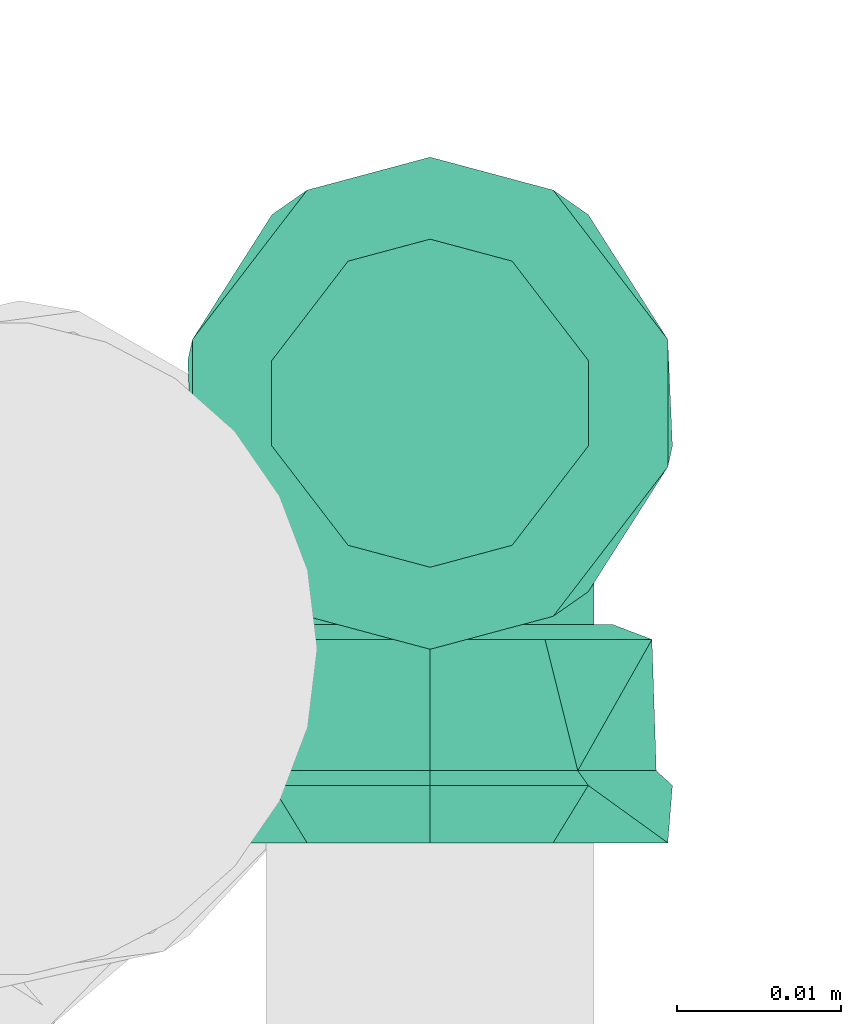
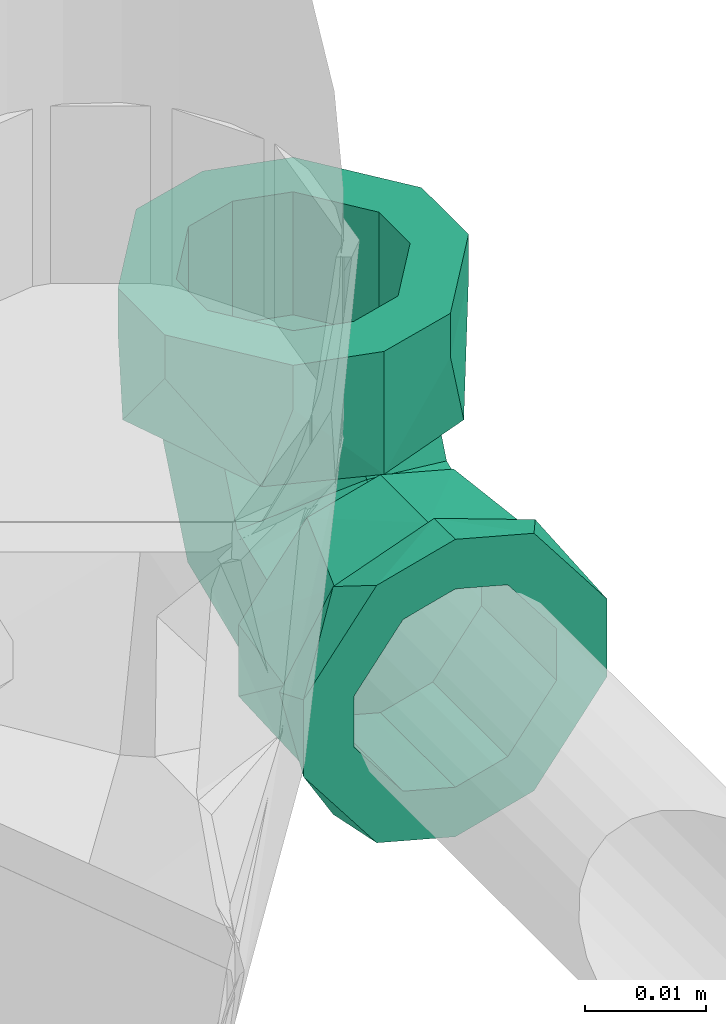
# One storey, part 313 of 589: 1 flow fitting.
"""IFC2X3 building model written with IfcOpenShell, lengths in millimetres."""

from ifc_helpers import new_model, entity, si_unit, converted_unit, derived_unit, direction, frame, origin, place, context, subcontext, project, spatial, faceted_brep, source, transform, mapped, material, type_object, type_shapes, element, save


model = new_model("IFC2X3")

# Units and contexts
model_context = context("Model", 3, precision=0.01, world=origin(), true_north=direction((6.123031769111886e-17, 1.0)))
body_context = subcontext(model_context, "Body", "Model", "MODEL_VIEW")
ifc_project = project(units=[si_unit("LENGTHUNIT", "METRE", prefix="MILLI"), si_unit("AREAUNIT", "SQUARE_METRE"), si_unit("VOLUMEUNIT", "CUBIC_METRE"), converted_unit("PLANEANGLEUNIT", "DEGREE", entity("IfcRatioMeasure", 0.017453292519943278), si_unit("PLANEANGLEUNIT", "RADIAN"), dimensions=[0, 0, 0, 0, 0, 0, 0]), si_unit("MASSUNIT", "GRAM", prefix="KILO"), derived_unit("MASSDENSITYUNIT", [(si_unit("MASSUNIT", "GRAM", prefix="KILO"), 1), (si_unit("LENGTHUNIT", "METRE"), -3)]), derived_unit("IONCONCENTRATIONUNIT", [(si_unit("MASSUNIT", "GRAM", prefix="KILO"), 1), (si_unit("LENGTHUNIT", "METRE"), -3)]), derived_unit("MOMENTOFINERTIAUNIT", [(si_unit("LENGTHUNIT", "METRE"), 4)]), si_unit("TIMEUNIT", "SECOND"), si_unit("FREQUENCYUNIT", "HERTZ"), si_unit("THERMODYNAMICTEMPERATUREUNIT", "DEGREE_CELSIUS"), derived_unit("THERMALTRANSMITTANCEUNIT", [(si_unit("MASSUNIT", "GRAM", prefix="KILO"), 1), (si_unit("THERMODYNAMICTEMPERATUREUNIT", "KELVIN"), -1), (si_unit("TIMEUNIT", "SECOND"), -3)]), derived_unit("THERMALCONDUCTANCEUNIT", [(si_unit("MASSUNIT", "GRAM", prefix="KILO"), 1), (si_unit("THERMODYNAMICTEMPERATUREUNIT", "KELVIN"), -1), (si_unit("TIMEUNIT", "SECOND"), -3), (si_unit("LENGTHUNIT", "METRE"), 1)]), derived_unit("VOLUMETRICFLOWRATEUNIT", [(si_unit("LENGTHUNIT", "METRE"), 3), (si_unit("TIMEUNIT", "SECOND"), -1)]), derived_unit("MASSFLOWRATEUNIT", [(si_unit("MASSUNIT", "GRAM", prefix="KILO"), 1), (si_unit("TIMEUNIT", "SECOND"), -1)]), derived_unit("ROTATIONALFREQUENCYUNIT", [(si_unit("TIMEUNIT", "SECOND"), -1)]), si_unit("ELECTRICCURRENTUNIT", "AMPERE"), si_unit("ELECTRICVOLTAGEUNIT", "VOLT"), si_unit("POWERUNIT", "WATT"), si_unit("FORCEUNIT", "NEWTON", prefix="KILO"), si_unit("ILLUMINANCEUNIT", "LUX"), si_unit("LUMINOUSFLUXUNIT", "LUMEN"), si_unit("LUMINOUSINTENSITYUNIT", "CANDELA"), derived_unit("USERDEFINED", [(si_unit("MASSUNIT", "GRAM", prefix="KILO"), -1), (si_unit("LENGTHUNIT", "METRE"), -2), (si_unit("TIMEUNIT", "SECOND"), 3), (si_unit("LUMINOUSFLUXUNIT", "LUMEN"), 1)]), derived_unit("USERDEFINED", [(si_unit("MASSUNIT", "GRAM", prefix="KILO"), 1), (si_unit("TIMEUNIT", "SECOND"), -3), (si_unit("LENGTHUNIT", "METRE"), 3), (si_unit("ELECTRICCURRENTUNIT", "AMPERE"), -2)]), derived_unit("SOUNDPOWERUNIT", [(si_unit("MASSUNIT", "GRAM", prefix="KILO"), 1), (si_unit("TIMEUNIT", "SECOND"), -3), (si_unit("LENGTHUNIT", "METRE"), 2)]), derived_unit("SOUNDPRESSUREUNIT", [(si_unit("MASSUNIT", "GRAM", prefix="KILO"), 1), (si_unit("LENGTHUNIT", "METRE"), -1), (si_unit("TIMEUNIT", "SECOND"), -2)]), derived_unit("LINEARVELOCITYUNIT", [(si_unit("LENGTHUNIT", "METRE"), 1), (si_unit("TIMEUNIT", "SECOND"), -1)]), si_unit("PRESSUREUNIT", "PASCAL"), derived_unit("USERDEFINED", [(si_unit("MASSUNIT", "GRAM", prefix="KILO"), 1), (si_unit("LENGTHUNIT", "METRE"), -2), (si_unit("TIMEUNIT", "SECOND"), -2)]), derived_unit("LINEARFORCEUNIT", [(si_unit("MASSUNIT", "GRAM", prefix="KILO"), 1), (si_unit("TIMEUNIT", "SECOND"), -2)]), derived_unit("PLANARFORCEUNIT", [(si_unit("MASSUNIT", "GRAM", prefix="KILO"), 1), (si_unit("LENGTHUNIT", "METRE"), -1), (si_unit("TIMEUNIT", "SECOND"), -2)]), derived_unit("SPECIFICHEATCAPACITYUNIT", [(si_unit("THERMODYNAMICTEMPERATUREUNIT", "KELVIN"), -1), (si_unit("LENGTHUNIT", "METRE"), 2), (si_unit("TIMEUNIT", "SECOND"), -2)]), derived_unit("HEATINGVALUEUNIT", [(si_unit("LENGTHUNIT", "METRE"), 2), (si_unit("TIMEUNIT", "SECOND"), -2)]), derived_unit("VAPORPERMEABILITYUNIT", [(si_unit("LENGTHUNIT", "METRE"), -1), (si_unit("TIMEUNIT", "SECOND"), 1)]), derived_unit("DYNAMICVISCOSITYUNIT", [(si_unit("MASSUNIT", "GRAM", prefix="KILO"), 1), (si_unit("TIMEUNIT", "SECOND"), -1), (si_unit("LENGTHUNIT", "METRE"), -1)]), derived_unit("THERMALEXPANSIONCOEFFICIENTUNIT", [(si_unit("THERMODYNAMICTEMPERATUREUNIT", "KELVIN"), -1)]), derived_unit("MODULUSOFELASTICITYUNIT", [(si_unit("MASSUNIT", "GRAM", prefix="KILO"), 1), (si_unit("LENGTHUNIT", "METRE"), -1), (si_unit("TIMEUNIT", "SECOND"), -2)]), derived_unit("ISOTHERMALMOISTURECAPACITYUNIT", [(si_unit("LENGTHUNIT", "METRE"), 3), (si_unit("MASSUNIT", "GRAM", prefix="KILO"), -1)]), derived_unit("MOISTUREDIFFUSIVITYUNIT", [(si_unit("TIMEUNIT", "SECOND"), -1), (si_unit("LENGTHUNIT", "METRE"), 2)])], contexts=[model_context])

# Site, building, storey
site_placement = place(None, origin())
site = spatial("IfcSite", under=ifc_project, at=site_placement, Name="Default", CompositionType="ELEMENT")
building_placement = place(site_placement, origin())
building = spatial("IfcBuilding", under=site, at=building_placement, CompositionType="ELEMENT")
storey_placement = place(building_placement, frame((0.0, 0.0, 100.0)))
storey = spatial("IfcBuildingStorey", under=building, at=storey_placement, Name="TÉRREO", CompositionType="ELEMENT", Elevation=100.0)

# Flow fitting
ifc_material = material(Name="PVC Azul")
pipe_fitting_type = type_object("IfcPipeFittingType", Name="PVC Marrom Soldável_Joelho 90° Azul com Bucha de Latão_Rodrigo MEP:Joelho_20x1/2''_ 25x1/2''_ 25x3/4'' _ 32x3/4''", PredefinedType="NOTDEFINED", material=ifc_material)
shared_shape = source(origin(), body_context, "Body", "Brep", [
    faceted_brep([(-14.399999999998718, 2.5881904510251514, -9.659258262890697), (-14.399999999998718, -2.588190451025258, -9.659258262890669), (-14.399999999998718, -3.623466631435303, -13.522961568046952), (-14.399999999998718, 3.6234666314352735, -13.522961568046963), (-14.399999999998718, 8.660254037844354, -5.0), (-14.399999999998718, -12.124355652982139, -7.0), (-14.399999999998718, -8.660254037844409, -5.0), (-14.399999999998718, -10.0, 0.0), (-14.399999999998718, -14.0, 0.0), (-14.399999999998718, -8.660254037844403, 5.0), (-14.399999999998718, -12.12435565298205, 7.0), (-14.399999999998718, -2.5881904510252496, 9.659258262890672), (-14.399999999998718, -3.623466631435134, 13.522961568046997), (-14.399999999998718, 2.5881904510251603, 9.659258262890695), (-14.399999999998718, 3.623466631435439, 13.522961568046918), (-14.399999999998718, 8.660254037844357, 5.0), (-14.399999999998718, 12.124355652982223, 7.0), (-14.399999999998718, 14.0, 0.0), (-14.399999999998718, 10.0, 0.0), (-14.399999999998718, 12.124355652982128, -7.0), (-22.39999999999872, 14.0, 0.0), (-22.399999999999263, 10.724120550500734, 8.999624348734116), (-22.3999999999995, 4.145562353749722, 11.393296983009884), (-22.399999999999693, -2.432995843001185, 13.786969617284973), (-22.39999999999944, -10.726377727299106, 8.99693396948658), (-22.39999999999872, -14.0, 0.0), (-22.39999999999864, -10.726377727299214, -8.996933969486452), (-22.39999999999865, -4.148420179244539, -11.392256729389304), (-22.39999999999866, 2.4295373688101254, -13.787579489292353), (-22.399999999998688, 10.724120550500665, -8.9996243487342), (-26.799999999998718, -10.0, 0.0), (-26.799999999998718, -8.660254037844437, 5.0), (-26.799999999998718, -2.5881904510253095, 9.659258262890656), (-26.799999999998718, 2.5881904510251, 9.659258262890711), (-26.799999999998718, 8.660254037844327, 5.0), (-26.799999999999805, 10.0, 0.0), (-26.799999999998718, 8.660254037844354, -5.0), (-26.799999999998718, 2.588190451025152, -9.659258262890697), (-26.799999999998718, -2.588190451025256, -9.659258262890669), (-26.799999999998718, -8.66025403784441, -5.0), (-23.29999999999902, -11.490129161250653, 9.64245465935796), (-23.29999999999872, -15.0, 0.0), (-23.29999999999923, -2.6030757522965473, 14.772406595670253), (-23.299999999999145, 11.492547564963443, 9.639572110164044), (-23.299999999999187, 4.444735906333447, 12.205989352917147), (-23.29999999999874, 15.0, 0.0), (-23.299999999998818, 11.492547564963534, -9.6395721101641), (-23.299999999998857, 2.6067812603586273, -14.771753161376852), (-23.299999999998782, -11.490129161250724, -9.642454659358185), (-23.299999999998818, -4.441673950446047, -12.20710391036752), (-26.799999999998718, -3.882285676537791, -14.488887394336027), (-26.799999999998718, -12.99038105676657, -7.500000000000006), (-26.799999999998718, 3.8822856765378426, -14.488887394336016), (-26.799999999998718, -15.0, 0.0), (-26.799999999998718, -12.990381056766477, 7.500000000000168), (-26.799999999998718, -3.882285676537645, 14.488887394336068), (-26.799999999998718, 3.8822856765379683, 14.488887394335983), (-26.799999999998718, 12.990381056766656, 7.499999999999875), (-26.799999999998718, 15.0, 0.0), (-26.799999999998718, 12.990381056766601, -7.49999999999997)], [[[0, 1, 2]], [[2, 3, 0]], [[4, 0, 3]], [[5, 2, 1]], [[1, 6, 5]], [[6, 7, 5]], [[8, 5, 7]], [[8, 7, 9]], [[10, 8, 9]], [[9, 11, 10]], [[11, 12, 10]], [[13, 12, 11]], [[12, 13, 14]], [[13, 15, 14]], [[16, 14, 15]], [[16, 15, 17]], [[17, 15, 18]], [[18, 4, 19]], [[17, 18, 19]], [[3, 19, 4]], [[20, 21, 16]], [[20, 16, 17]], [[16, 21, 14]], [[14, 21, 22, 23]], [[12, 23, 24]], [[10, 24, 25]], [[24, 10, 12]], [[10, 25, 8]], [[23, 12, 14]], [[25, 26, 5]], [[25, 5, 8]], [[5, 26, 2]], [[2, 26, 27, 28]], [[3, 28, 29]], [[19, 29, 20]], [[29, 19, 3]], [[19, 20, 17]], [[28, 3, 2]], [[9, 7, 30, 31]], [[11, 9, 31, 32]], [[32, 33, 13, 11]], [[15, 13, 33, 34]], [[18, 15, 34, 35]], [[4, 18, 35, 36]], [[0, 4, 36, 37]], [[37, 38, 1, 0]], [[6, 1, 38, 39]], [[7, 6, 39, 30]], [[24, 23, 40]], [[25, 24, 41]], [[41, 24, 40]], [[23, 42, 40]], [[21, 20, 43]], [[21, 43, 44]], [[22, 42, 23]], [[45, 43, 20]], [[42, 22, 44]], [[22, 21, 44]], [[20, 29, 46]], [[46, 45, 20]], [[47, 46, 29]], [[48, 49, 27]], [[29, 28, 47]], [[26, 25, 41]], [[48, 27, 26]], [[48, 26, 41]], [[28, 49, 47]], [[49, 28, 27]], [[50, 38, 37]], [[38, 50, 51]], [[37, 52, 50]], [[51, 39, 38]], [[51, 30, 39]], [[30, 51, 53]], [[31, 30, 53]], [[31, 53, 54]], [[54, 32, 31]], [[54, 55, 32]], [[32, 55, 33]], [[56, 33, 55]], [[56, 34, 33]], [[34, 56, 57]], [[58, 34, 57]], [[35, 34, 58]], [[59, 35, 58]], [[59, 36, 35]], [[36, 59, 52]], [[52, 37, 36]], [[58, 57, 45]], [[57, 43, 45]], [[43, 57, 56]], [[56, 42, 44, 43]], [[40, 55, 54]], [[41, 54, 53]], [[55, 40, 42]], [[40, 54, 41]], [[55, 42, 56]], [[53, 51, 41]], [[51, 48, 41]], [[48, 51, 50]], [[50, 47, 49, 48]], [[46, 52, 59]], [[45, 59, 58]], [[52, 46, 47]], [[46, 59, 45]], [[52, 47, 50]]]),
    faceted_brep([(-14.39999999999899, 14.0, 0.0), (-14.39999999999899, 12.124355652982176, -7.0), (-14.39999999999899, 3.623466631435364, -13.52296156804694), (-14.39999999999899, -3.6234666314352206, -13.52296156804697), (-14.39999999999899, -12.124355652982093, -7.0), (-14.39999999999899, -14.0, 0.0), (-14.39999999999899, -12.124355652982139, 7.0), (-14.39999999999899, -3.623466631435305, 13.522961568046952), (-14.39999999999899, 3.623466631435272, 13.522961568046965), (-14.39999999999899, 12.124355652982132, 7.0), (-13.499999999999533, -2.9880658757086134, 11.151613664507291), (-13.499999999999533, -9.99826328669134, 5.772499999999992), (-13.499999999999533, -11.544999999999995, 0.0), (-13.499999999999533, -9.998263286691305, -5.772500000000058), (-13.499999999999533, -2.988065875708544, -11.151613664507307), (-13.499999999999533, 2.9880658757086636, -11.15161366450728), (-13.499999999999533, 9.998263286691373, -5.772499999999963), (-13.499999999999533, 11.545000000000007, 0.0), (-13.499999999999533, 9.998263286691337, 5.772500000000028), (-13.499999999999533, 2.9880658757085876, 11.1516136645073)], [[[0, 1, 2, 3, 4, 5, 6, 7, 8, 9]], [[10, 11, 12, 13, 14, 15, 16, 17, 18, 19]], [[16, 15, 2, 1]], [[17, 16, 1, 0]], [[15, 14, 3, 2]], [[13, 12, 5, 4]], [[14, 13, 4, 3]], [[11, 10, 7, 6]], [[12, 11, 6, 5]], [[10, 19, 8, 7]], [[18, 17, 0, 9]], [[19, 18, 9, 8]]]),
    faceted_brep([(-2.9880658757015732, 13.49999999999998, 11.151613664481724), (-9.998263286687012, 13.49999999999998, 5.772499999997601), (-11.545000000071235, 13.49999999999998, 0.0), (-9.998263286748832, 13.49999999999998, -5.772500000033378), (-2.9880658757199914, 13.49999999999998, -11.151613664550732), (2.9880658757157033, 13.49999999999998, -11.15161366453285), (9.998263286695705, 13.49999999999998, -5.772500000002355), (11.544999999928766, 13.49999999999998, 0.0), (9.99826328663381, 13.49999999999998, 5.772499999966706), (2.9880658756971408, 13.49999999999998, 11.151613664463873), (11.490129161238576, 14.399999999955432, -9.642454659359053), (15.0, 14.399999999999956, 0.0), (2.6030757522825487, 14.399999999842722, -14.772406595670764), (-15.0, 14.399999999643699, 0.0), (-11.492547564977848, 14.399999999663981, -9.639572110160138), (-11.492547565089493, 14.40000000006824, 9.639572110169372), (-2.606781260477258, 14.400000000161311, 14.771753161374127), (11.490129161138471, 14.400000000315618, 9.642454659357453), (15.0, 22.39999999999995, 0.0), (13.99519052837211, 22.39999999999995, 3.750000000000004), (12.99038105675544, 22.39999999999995, 7.499999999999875), (15.0, 23.299999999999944, 0.0), (13.918673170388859, 23.299999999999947, 4.035566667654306), (12.990381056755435, 26.79999999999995, 7.4999999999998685), (15.0, 26.79999999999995, 0.0), (12.990381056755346, 23.299999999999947, 7.500000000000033), (8.436333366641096, 22.399999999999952, 10.994443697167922), (3.882285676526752, 22.39999999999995, 14.488887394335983), (-3.8822856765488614, 22.399999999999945, 14.488887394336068), (-8.436333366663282, 22.39999999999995, 10.994443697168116), (-12.9903810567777, 22.399999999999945, 7.500000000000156), (-13.995190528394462, 22.39999999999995, 3.750000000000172), (-15.0, 22.399999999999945, 0.0), (-12.990381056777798, 23.299999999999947, 7.499999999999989), (-13.995190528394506, 23.299999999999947, 3.7499999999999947), (-15.0, 26.79999999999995, 0.0), (-12.990381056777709, 26.79999999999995, 7.500000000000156), (-15.0, 23.299999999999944, 0.0), (0.0, 22.39999999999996, 14.488887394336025), (-13.995190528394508, 22.399999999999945, -3.750000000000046), (-12.990381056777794, 22.399999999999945, -7.499999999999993), (-13.918673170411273, 23.299999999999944, -4.035566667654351), (-12.990381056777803, 26.79999999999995, -7.499999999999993), (-12.99038105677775, 23.299999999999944, -7.500000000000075), (-8.43633336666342, 22.399999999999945, -10.994443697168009), (-3.882285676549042, 22.399999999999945, -14.488887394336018), (3.8822856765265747, 22.39999999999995, -14.48888739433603), (8.436333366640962, 22.39999999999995, -10.994443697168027), (12.990381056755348, 22.39999999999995, -7.500000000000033), (13.995190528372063, 22.39999999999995, -3.750000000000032), (12.990381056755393, 23.299999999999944, -7.499999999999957), (13.995190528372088, 23.299999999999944, -3.7499999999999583), (12.990381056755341, 26.79999999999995, -7.500000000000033), (0.0, 22.39999999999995, -14.488887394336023), (-3.8822856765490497, 23.29999999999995, 14.488887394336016), (-8.436333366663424, 23.299999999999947, 10.994443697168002), (-3.8822856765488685, 26.79999999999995, 14.488887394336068), (0.0, 23.29999999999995, 14.488887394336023), (3.8822856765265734, 23.29999999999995, 14.48888739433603), (3.8822856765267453, 26.79999999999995, 14.488887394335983), (8.436333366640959, 23.299999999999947, 10.994443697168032), (3.882285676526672, 23.299999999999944, -14.488887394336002), (8.436333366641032, 23.299999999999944, -10.994443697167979), (3.882285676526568, 26.79999999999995, -14.48888739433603), (0.0, 23.299999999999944, -14.488887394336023), (-3.8822856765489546, 23.299999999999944, -14.488887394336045), (-3.882285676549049, 26.79999999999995, -14.488887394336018), (-8.436333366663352, 23.299999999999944, -10.99444369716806), (-2.588190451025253, 26.79999999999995, -9.659258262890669), (2.588190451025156, 26.79999999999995, -9.659258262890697), (-8.660254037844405, 26.79999999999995, -5.0), (-10.0, 26.79999999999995, 0.0), (-8.660254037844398, 26.79999999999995, 5.0), (-2.5881904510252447, 26.79999999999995, 9.659258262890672), (2.588190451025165, 26.79999999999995, 9.659258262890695), (8.660254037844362, 26.79999999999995, 5.0), (10.0, 26.79999999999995, 0.0), (8.660254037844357, 26.79999999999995, -5.0), (-8.660254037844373, 14.399999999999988, -5.0), (-10.0, 14.399999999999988, 0.0), (-8.660254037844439, 14.399999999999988, 5.0), (-2.5881904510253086, 14.399999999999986, 9.659258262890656), (2.5881904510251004, 14.399999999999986, 9.659258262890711), (8.660254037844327, 14.399999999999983, 5.0), (10.0, 14.399999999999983, 0.0), (8.660254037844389, 14.399999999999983, -5.0), (2.5881904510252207, 14.399999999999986, -9.65925826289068), (-2.588190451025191, 14.399999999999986, -9.659258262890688)], [[[0, 1, 2, 3, 4, 5, 6, 7, 8, 9]], [[6, 5, 10]], [[7, 6, 11]], [[11, 6, 10]], [[5, 12, 10]], [[3, 2, 13]], [[4, 3, 14]], [[4, 14, 12]], [[14, 3, 13]], [[4, 12, 5]], [[1, 0, 15]], [[2, 1, 13]], [[13, 1, 15]], [[0, 16, 15]], [[8, 7, 11]], [[9, 8, 17]], [[9, 17, 16]], [[17, 8, 11]], [[9, 16, 0]], [[11, 18, 19]], [[11, 19, 20]], [[21, 19, 18]], [[21, 22, 19]], [[23, 22, 21]], [[21, 24, 23]], [[23, 25, 22]], [[22, 25, 20]], [[22, 20, 19]], [[20, 17, 11]], [[17, 20, 26, 27]], [[17, 27, 16]], [[15, 28, 29, 30]], [[13, 30, 31]], [[13, 31, 32]], [[31, 30, 33]], [[31, 33, 34]], [[35, 34, 33]], [[33, 36, 35]], [[35, 37, 34]], [[32, 34, 37]], [[34, 32, 31]], [[28, 15, 16]], [[15, 30, 13]], [[16, 27, 38, 28]], [[13, 32, 39]], [[13, 39, 40]], [[37, 39, 32]], [[37, 41, 39]], [[42, 41, 37]], [[37, 35, 42]], [[42, 43, 41]], [[41, 43, 40]], [[41, 40, 39]], [[40, 14, 13]], [[14, 40, 44, 45]], [[14, 45, 12]], [[10, 46, 47, 48]], [[11, 48, 49]], [[11, 49, 18]], [[49, 48, 50]], [[49, 50, 51]], [[24, 51, 50]], [[50, 52, 24]], [[24, 21, 51]], [[18, 51, 21]], [[51, 18, 49]], [[46, 10, 12]], [[10, 48, 11]], [[12, 45, 53, 46]], [[54, 55, 29]], [[54, 29, 28]], [[36, 55, 54]], [[54, 56, 36]], [[36, 33, 55]], [[30, 55, 33]], [[55, 30, 29]], [[27, 57, 38]], [[57, 27, 58]], [[56, 57, 58]], [[59, 56, 58]], [[56, 54, 57]], [[57, 54, 28]], [[57, 28, 38]], [[20, 60, 26]], [[20, 25, 60]], [[59, 60, 25]], [[25, 23, 59]], [[59, 58, 60]], [[58, 26, 60]], [[27, 26, 58]], [[61, 62, 47]], [[61, 47, 46]], [[52, 62, 61]], [[61, 63, 52]], [[52, 50, 62]], [[48, 62, 50]], [[62, 48, 47]], [[45, 64, 53]], [[64, 45, 65]], [[63, 64, 65]], [[66, 63, 65]], [[63, 61, 64]], [[64, 61, 46]], [[64, 46, 53]], [[40, 67, 44]], [[40, 43, 67]], [[66, 67, 43]], [[43, 42, 66]], [[66, 65, 67]], [[65, 44, 67]], [[45, 44, 65]], [[66, 68, 69]], [[68, 66, 42]], [[69, 63, 66]], [[42, 70, 68]], [[42, 71, 70]], [[71, 42, 35]], [[72, 71, 35]], [[72, 35, 36]], [[36, 73, 72]], [[36, 56, 73]], [[73, 56, 74]], [[59, 74, 56]], [[59, 75, 74]], [[75, 59, 23]], [[24, 75, 23]], [[76, 75, 24]], [[52, 76, 24]], [[52, 77, 76]], [[77, 52, 63]], [[63, 69, 77]], [[78, 79, 80, 81, 82, 83, 84, 85, 86, 87]], [[80, 79, 71, 72]], [[81, 80, 72, 73]], [[73, 74, 82, 81]], [[83, 82, 74, 75]], [[84, 83, 75, 76]], [[85, 84, 76, 77]], [[86, 85, 77, 69]], [[69, 68, 87, 86]], [[78, 87, 68, 70]], [[79, 78, 70, 71]]]),
    faceted_brep([(4.209489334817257, -4.209489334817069, 0.0), (0.1277154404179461, -0.12771544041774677, 9.998263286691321), (-13.49999999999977, -5.772500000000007, 9.998263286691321), (-13.49999999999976, -11.544999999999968, 0.0), (-8.035832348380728, 8.035832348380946, 9.998263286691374), (-13.499999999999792, 5.772499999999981, 9.998263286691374), (-12.117606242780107, 12.117606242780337, 0.0), (-13.499999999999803, 11.545000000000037, 0.0), (-8.035832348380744, 8.035832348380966, -9.998263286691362), (-13.49999999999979, 5.772500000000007, -9.998263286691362), (0.12771544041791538, -0.12771544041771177, -9.998263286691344), (-13.499999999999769, -5.772499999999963, -9.998263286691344), (11.545000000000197, 13.499999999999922, 0.0), (5.772500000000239, 13.499999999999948, 9.998263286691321), (-5.77249999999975, 13.500000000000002, 9.998263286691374), (-11.544999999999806, 13.500000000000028, 0.0), (-5.772499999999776, 13.500000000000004, -9.998263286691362), (5.772500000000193, 13.49999999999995, -9.998263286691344)], [[[0, 1, 2, 3]], [[1, 4, 5, 2]], [[4, 6, 7, 5]], [[6, 8, 9, 7]], [[8, 10, 11, 9]], [[10, 0, 3, 11]], [[12, 13, 1, 0]], [[13, 14, 4, 1]], [[14, 15, 6, 4]], [[15, 16, 8, 6]], [[16, 17, 10, 8]], [[17, 12, 0, 10]], [[3, 2, 5, 7, 9, 11]], [[17, 16, 15, 14, 13, 12]]]),
])
type_shapes(pipe_fitting_type, [shared_shape])
flow_fitting_placement = place(storey_placement, frame((-3407.3955348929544, -7528.821715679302, -104.85493019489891), z_axis=(1.0, 0.0, 0.0), x_axis=(0.0, 1.0, 0.0)))
element("IfcFlowFitting", 1, at=flow_fitting_placement, inside=storey, type_object=pipe_fitting_type, material=ifc_material, Name="PVC Marrom Soldável_Joelho 90° Azul com Bucha de Latão_Rodrigo MEP:Joelho_20x1/2''_ 25x1/2''_ 25x3/4'' _ 32x3/4''", ObjectType="PVC Marrom Soldável_Joelho 90° Azul com Bucha de Latão_Rodrigo MEP:Joelho_20x1/2''_ 25x1/2''_ 25x3/4'' _ 32x3/4''", context=body_context, shape_type="MappedRepresentation", body=[
    mapped(shared_shape, transform((0.0, 0.0, 0.0), scale=1.0)),
])

save(model, "model.ifc")
